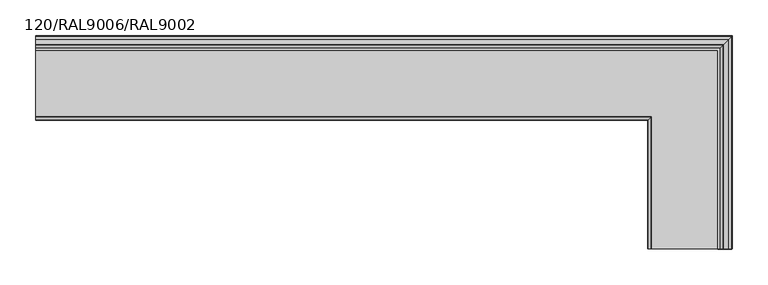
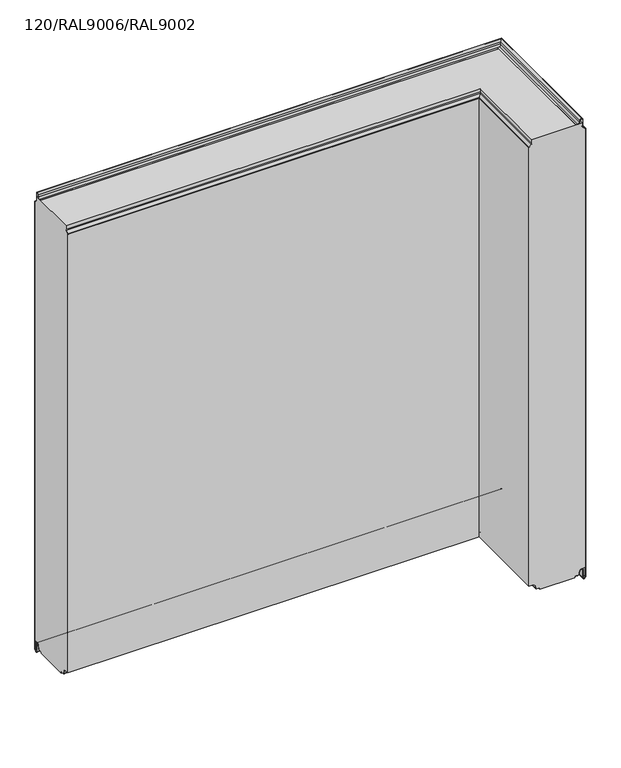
"""IFC4 building model written with IfcOpenShell, lengths in millimetres: plate geometry, TR_C_H_FTV_Corner_Tr_A : 120/RAL9006/RAL9002."""

from ifc_helpers import new_model, si_unit, frame, origin, place, context, project, spatial, polyline, circle_curve, ellipse_curve, source, transform, mapped, element, save
from ifc_brep_helpers import plane_surface, cylinder_surface, revolved_surface, advanced_brep


def plate_120_ral9006_ral9002_56020689(model_context):
    return source(origin(), model_context, "Body", "AdvancedBrep", [
        advanced_brep(
        [(483.2, -300.0, 1000.0), (376.8, -300.0, 1000.0), (376.8, -300.0, 992.6000012), (375.8334524, -300.0, 990.2665488), (371.4443651, -300.0, 985.8774615), (370.8, -300.0, 984.3218266), (370.8, -300.0, 14.4000012), (379.45, -300.0, 14.4000012), (383.635433, -300.0, 10.8880059), (384.7022582, -300.0, 4.837739), (387.6074411, -300.0, 2.4000012), (393.7, -300.0, 2.4000012), (393.7, -300.0, 0.0), (466.3, -300.0, 0.0), (466.3, -300.0, 2.4000012), (472.3925589, -300.0, 2.4000012), (475.2977418, -300.0, 4.837739), (476.364567, -300.0, 10.8880059), (480.55, -300.0, 14.4000012), (489.2, -300.0, 14.4000012), (489.2, -300.0, 984.3218266), (488.5556349, -300.0, 985.8774615), (484.1665476, -300.0, 990.2665488), (483.2, -300.0, 992.6000012), (376.8, -113.2, 992.6000012), (376.8, -113.2, 1000.0), (-490.0, -113.2, 1000.0), (-490.0, -113.2, 992.6000012), (375.8334524, -114.1665476, 990.2665488), (-490.0, -114.1665476, 990.2665488), (371.4443651, -118.5556349, 985.8774615), (-490.0, -118.5556349, 985.8774615), (370.8, -119.2, 984.3218266), (-490.0, -119.2, 984.3218266), (370.8, -119.2, 14.4000012), (-490.0, -119.2, 14.4000012), (383.635433, -106.364567, 10.8880059), (379.45, -110.55, 14.4000012), (-490.0, -110.55, 14.4000012), (-490.0, -106.364567, 10.8880059), (384.7022582, -105.2977418, 4.837739), (-490.0, -105.2977418, 4.837739), (387.6074411, -102.3925589, 2.4000012), (-490.0, -102.3925589, 2.4000012), (393.7, -96.3, 0.0), (393.7, -96.3, 2.4000012), (-490.0, -96.3, 2.4000012), (-490.0, -96.3, 0.0), (466.3, -23.7, 2.4000012), (466.3, -23.7, 0.0), (-490.0, -23.7, 0.0), (-490.0, -23.7, 2.4000012), (475.2977418, -14.7022582, 4.837739), (472.3925589, -17.6074411, 2.4000012), (-490.0, -17.6074411, 2.4000012), (-490.0, -14.7022582, 4.837739), (476.364567, -13.635433, 10.8880059), (-490.0, -13.635433, 10.8880059), (480.55, -9.45, 14.4000012), (-490.0, -9.45, 14.4000012), (489.2, -0.8, 984.3218266), (489.2, -0.8, 14.4000012), (-490.0, -0.8, 14.4000012), (-490.0, -0.8, 984.3218266), (488.5556349, -1.4443651, 985.8774615), (-490.0, -1.4443651, 985.8774615), (484.1665476, -5.8334524, 990.2665488), (-490.0, -5.8334524, 990.2665488), (483.2, -6.8, 992.6000012), (-490.0, -6.8, 992.6000012), (483.2, -6.8, 1000.0), (-490.0, -6.8, 1000.0)],
        [
            (0, 1),
            (1, 2),
            (2, 3, circle_curve(frame((373.5, -300.0, 992.6000012), z_axis=(0.0, 1.0, 0.0), x_axis=(-1.0, 0.0, 0.0)), 3.3)),
            (3, 4),
            (4, 5, circle_curve(frame((373.0, -300.0, 984.3218266), z_axis=(0.0, -1.0, 0.0), x_axis=(-1.0, 0.0, 0.0)), 2.2)),
            (5, 6),
            (6, 7),
            (7, 8, circle_curve(frame((379.45, -300.0, 10.1500012), z_axis=(0.0, 1.0, 0.0), x_axis=(-1.0, 0.0, 0.0)), 4.25)),
            (8, 9),
            (9, 10, circle_curve(frame((387.6074411, -300.0, 5.3500012), z_axis=(0.0, -1.0, 0.0), x_axis=(-1.0, 0.0, 0.0)), 2.95)),
            (10, 11),
            (11, 12),
            (12, 13),
            (13, 14),
            (14, 15),
            (15, 16, circle_curve(frame((472.3925589, -300.0, 5.3500012), z_axis=(0.0, -1.0, 0.0), x_axis=(-1.0, 0.0, 0.0)), 2.95)),
            (16, 17),
            (17, 18, circle_curve(frame((480.55, -300.0, 10.1500012), z_axis=(0.0, 1.0, 0.0), x_axis=(-1.0, 0.0, 0.0)), 4.25)),
            (18, 19),
            (19, 20),
            (20, 21, circle_curve(frame((487.0, -300.0, 984.3218266), z_axis=(0.0, -1.0, 0.0), x_axis=(-1.0, 0.0, 0.0)), 2.2)),
            (21, 22),
            (22, 23, circle_curve(frame((486.5, -300.0, 992.6000012), z_axis=(0.0, 1.0, 0.0), x_axis=(-1.0, 0.0, 0.0)), 3.3)),
            (23, 0),
            (24, 25),
            (25, 26),
            (26, 27),
            (27, 24),
            (28, 24, ellipse_curve(frame((373.5, -116.5, 992.6000012), z_axis=(0.7071067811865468, -0.7071067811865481, 0.0), x_axis=(-0.7071067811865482, -0.7071067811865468, 0.0)), 4.6669048, 3.3)),
            (27, 29, circle_curve(frame((-490.0, -116.5, 992.6000012), z_axis=(-1.0, 0.0, 0.0), x_axis=(0.0, -1.0, 0.0)), 3.3)),
            (29, 28),
            (30, 28),
            (29, 31),
            (31, 30),
            (32, 30, ellipse_curve(frame((373.0, -117.0, 984.3218266), z_axis=(-0.7071067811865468, 0.7071067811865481, 0.0), x_axis=(0.7071067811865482, 0.7071067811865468, 0.0)), 3.1112698, 2.2)),
            (31, 33, circle_curve(frame((-490.0, -117.0, 984.3218266), z_axis=(1.0, 0.0, 0.0), x_axis=(0.0, -1.0, 0.0)), 2.2)),
            (33, 32),
            (34, 32),
            (33, 35),
            (35, 34),
            (36, 37, ellipse_curve(frame((379.45, -110.55, 10.1500012), z_axis=(0.7071067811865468, -0.7071067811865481, 0.0), x_axis=(-0.7071067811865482, -0.7071067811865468, 0.0)), 6.0104076, 4.25)),
            (37, 38),
            (38, 39, circle_curve(frame((-490.0, -110.55, 10.1500012), z_axis=(-1.0, 0.0, 0.0), x_axis=(0.0, -1.0, 0.0)), 4.25)),
            (39, 36),
            (40, 36),
            (39, 41),
            (41, 40),
            (42, 40, ellipse_curve(frame((387.6074411, -102.3925589, 5.3500012), z_axis=(-0.7071067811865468, 0.7071067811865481, 0.0), x_axis=(0.7071067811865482, 0.7071067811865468, 0.0)), 4.17193, 2.95)),
            (41, 43, circle_curve(frame((-490.0, -102.3925589, 5.3500012), z_axis=(1.0, 0.0, 0.0), x_axis=(0.0, -1.0, 0.0)), 2.95)),
            (43, 42),
            (44, 45),
            (45, 46),
            (46, 47),
            (47, 44),
            (48, 49),
            (49, 50),
            (50, 51),
            (51, 48),
            (52, 53, ellipse_curve(frame((472.3925589, -17.6074411, 5.3500012), z_axis=(-0.7071067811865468, 0.7071067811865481, 0.0), x_axis=(0.7071067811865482, 0.7071067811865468, 0.0)), 4.17193, 2.95)),
            (53, 54),
            (54, 55, circle_curve(frame((-490.0, -17.6074411, 5.3500012), z_axis=(1.0, 0.0, 0.0), x_axis=(0.0, -1.0, 0.0)), 2.95)),
            (55, 52),
            (56, 52),
            (55, 57),
            (57, 56),
            (58, 56, ellipse_curve(frame((480.55, -9.45, 10.1500012), z_axis=(0.7071067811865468, -0.7071067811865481, 0.0), x_axis=(-0.7071067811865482, -0.7071067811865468, 0.0)), 6.0104076, 4.25)),
            (57, 59, circle_curve(frame((-490.0, -9.45, 10.1500012), z_axis=(-1.0, 0.0, 0.0), x_axis=(0.0, -1.0, 0.0)), 4.25)),
            (59, 58),
            (60, 61),
            (61, 62),
            (62, 63),
            (63, 60),
            (64, 60, ellipse_curve(frame((487.0, -3.0, 984.3218266), z_axis=(-0.7071067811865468, 0.7071067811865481, 0.0), x_axis=(0.7071067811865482, 0.7071067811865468, 0.0)), 3.1112698, 2.2)),
            (63, 65, circle_curve(frame((-490.0, -3.0, 984.3218266), z_axis=(1.0, 0.0, 0.0), x_axis=(0.0, -1.0, 0.0)), 2.2)),
            (65, 64),
            (66, 64),
            (65, 67),
            (67, 66),
            (68, 66, ellipse_curve(frame((486.5, -3.5, 992.6000012), z_axis=(0.7071067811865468, -0.7071067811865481, 0.0), x_axis=(-0.7071067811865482, -0.7071067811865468, 0.0)), 4.6669048, 3.3)),
            (67, 69, circle_curve(frame((-490.0, -3.5, 992.6000012), z_axis=(-1.0, 0.0, 0.0), x_axis=(0.0, -1.0, 0.0)), 3.3)),
            (69, 68),
            (70, 68),
            (69, 71),
            (71, 70),
            (62, 59),
            (54, 51),
            (50, 47),
            (46, 43),
            (38, 35),
            (26, 71),
            (0, 70),
            (25, 1),
            (24, 2),
            (28, 3),
            (30, 4),
            (32, 5),
            (34, 6),
            (37, 7),
            (36, 8),
            (40, 9),
            (42, 10),
            (45, 11),
            (44, 12),
            (49, 13),
            (48, 14),
            (53, 15),
            (52, 16),
            (56, 17),
            (58, 18),
            (61, 19),
            (60, 20),
            (64, 21),
            (66, 22),
            (68, 23),
        ],
        [
            plane_surface(frame((490.0, -300.0, 0.0), z_axis=(0.0, -1.0, 0.0), x_axis=(0.0, 0.0, 1.0))),
            plane_surface(frame((376.8, -113.2, 1000.0), z_axis=(0.0, -1.0, 0.0), x_axis=(-1.0, 0.0, 0.0))),
            revolved_surface(polyline([(-490.0, -119.8, 992.6000012), (376.80000003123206, -119.8, 992.6000012)]), (490.0, -116.5, 992.6000012), (-1.0, 0.0, 0.0)),
            plane_surface(frame((375.8334524, -114.1665476, 990.2665488), z_axis=(0.0, -0.707106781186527, 0.707106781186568), x_axis=(-1.0, 0.0, 0.0))),
            cylinder_surface(frame((490.0, -117.0, 984.3218266), z_axis=(1.0, 0.0, 0.0), x_axis=(0.0, -1.0, 0.0)), 2.2),
            plane_surface(frame((370.8, -119.2, 984.3218266), z_axis=(0.0, -1.0, 0.0), x_axis=(-1.0, 0.0, 0.0))),
            revolved_surface(polyline([(-490.0, -114.8, 10.1500012), (383.6999999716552, -114.8, 10.1500012)]), (490.0, -110.55, 10.1500012), (-1.0, 0.0, 0.0)),
            plane_surface(frame((383.635433, -106.364567, 10.8880059), z_axis=(0.0, -0.9848077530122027, -0.17364817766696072), x_axis=(-1.0, 0.0, 0.0))),
            cylinder_surface(frame((490.0, -102.3925589, 5.3500012), z_axis=(1.0, 0.0, 0.0), x_axis=(0.0, -1.0, 0.0)), 2.95),
            plane_surface(frame((393.7, -96.3, 2.4000012), z_axis=(0.0, -1.0, 0.0), x_axis=(-1.0, 0.0, 0.0))),
            plane_surface(frame((466.3, -23.7, 0.0), z_axis=(0.0, 1.0, 0.0), x_axis=(-1.0, 0.0, 0.0))),
            cylinder_surface(frame((490.0, -17.6074411, 5.3500012), z_axis=(1.0, 0.0, 0.0), x_axis=(0.0, -1.0, 0.0)), 2.95),
            plane_surface(frame((475.2977418, -14.7022582, 4.837739), z_axis=(0.0, 0.9848077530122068, -0.1736481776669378), x_axis=(-1.0, 0.0, 0.0))),
            revolved_surface(polyline([(-490.0, -13.7, 10.1500012), (484.79999997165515, -13.7, 10.1500012)]), (490.0, -9.45, 10.1500012), (-1.0, 0.0, 0.0)),
            plane_surface(frame((489.2, -0.8, 14.4000012), z_axis=(0.0, 1.0, 0.0), x_axis=(-1.0, 0.0, 0.0))),
            cylinder_surface(frame((490.0, -3.0, 984.3218266), z_axis=(1.0, 0.0, 0.0), x_axis=(0.0, -1.0, 0.0)), 2.2),
            plane_surface(frame((488.5556349, -1.4443651, 985.8774615), z_axis=(0.0, 0.7071067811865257, 0.7071067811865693), x_axis=(-1.0, 0.0, 0.0))),
            revolved_surface(polyline([(-490.0, -6.8, 992.6000012), (489.80000003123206, -6.8, 992.6000012)]), (490.0, -3.5, 992.6000012), (-1.0, 0.0, 0.0)),
            plane_surface(frame((483.2, -6.8, 992.6000012), z_axis=(0.0, 1.0, 0.0), x_axis=(-1.0, 0.0, 0.0))),
            plane_surface(frame((-490.0, 0.0, 0.0), z_axis=(-1.0, 0.0, 0.0), x_axis=(0.0, 0.0, 1.0))),
            plane_surface(frame((483.2, -300.0, 1000.0), z_axis=(0.0, 0.0, 1.0), x_axis=(0.0, 1.0, 0.0))),
            plane_surface(frame((376.8, -300.0, 1000.0), z_axis=(-1.0, 0.0, 0.0), x_axis=(0.0, 1.0, 0.0))),
            revolved_surface(polyline([(370.2, -113.19999996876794, 992.6000012), (370.2, -300.0, 992.6000012)]), (373.5, -300.0, 992.6000012), (0.0, 1.0, 0.0)),
            plane_surface(frame((375.8334524, -300.0, 990.2665488), z_axis=(-0.707106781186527, 0.0, 0.707106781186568), x_axis=(0.0, 1.0, 0.0))),
            cylinder_surface(frame((373.0, -300.0, 984.3218266), z_axis=(0.0, -1.0, 0.0), x_axis=(-1.0, 0.0, 0.0)), 2.2),
            plane_surface(frame((370.8, -300.0, 984.3218266), z_axis=(-1.0, 0.0, 0.0), x_axis=(0.0, 1.0, 0.0))),
            plane_surface(frame((370.8, -300.0, 14.4000012), z_axis=(0.0, 0.0, -1.0), x_axis=(0.0, 1.0, 0.0))),
            revolved_surface(polyline([(375.2, -106.30000002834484, 10.1500012), (375.2, -300.0, 10.1500012)]), (379.45, -300.0, 10.1500012), (0.0, 1.0, 0.0)),
            plane_surface(frame((383.635433, -300.0, 10.8880059), z_axis=(-0.9848077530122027, 0.0, -0.17364817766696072), x_axis=(0.0, 1.0, 0.0))),
            cylinder_surface(frame((387.6074411, -300.0, 5.3500012), z_axis=(0.0, -1.0, 0.0), x_axis=(-1.0, 0.0, 0.0)), 2.95),
            plane_surface(frame((387.6074411, -300.0, 2.4000012), z_axis=(0.0, 0.0, -1.0), x_axis=(0.0, 1.0, 0.0))),
            plane_surface(frame((393.7, -300.0, 2.4000012), z_axis=(-1.0, 0.0, 0.0), x_axis=(0.0, 1.0, 0.0))),
            plane_surface(frame((393.7, -300.0, 0.0), z_axis=(0.0, 0.0, -1.0), x_axis=(0.0, 1.0, 0.0))),
            plane_surface(frame((466.3, -300.0, 0.0), z_axis=(1.0, 0.0, 0.0), x_axis=(0.0, 1.0, 0.0))),
            plane_surface(frame((466.3, -300.0, 2.4000012), z_axis=(0.0, 0.0, -1.0), x_axis=(0.0, 1.0, 0.0))),
            cylinder_surface(frame((472.3925589, -300.0, 5.3500012), z_axis=(0.0, -1.0, 0.0), x_axis=(-1.0, 0.0, 0.0)), 2.95),
            plane_surface(frame((475.2977418, -300.0, 4.837739), z_axis=(0.9848077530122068, 0.0, -0.1736481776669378), x_axis=(0.0, 1.0, 0.0))),
            revolved_surface(polyline([(476.3, -5.200000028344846, 10.1500012), (476.3, -300.0, 10.1500012)]), (480.55, -300.0, 10.1500012), (0.0, 1.0, 0.0)),
            plane_surface(frame((480.55, -300.0, 14.4000012), z_axis=(0.0, 0.0, -1.0), x_axis=(0.0, 1.0, 0.0))),
            plane_surface(frame((489.2, -300.0, 14.4000012), z_axis=(1.0, 0.0, 0.0), x_axis=(0.0, 1.0, 0.0))),
            cylinder_surface(frame((487.0, -300.0, 984.3218266), z_axis=(0.0, -1.0, 0.0), x_axis=(-1.0, 0.0, 0.0)), 2.2),
            plane_surface(frame((488.5556349, -300.0, 985.8774615), z_axis=(0.7071067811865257, 0.0, 0.7071067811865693), x_axis=(0.0, 1.0, 0.0))),
            revolved_surface(polyline([(483.2, -0.19999996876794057, 992.6000012), (483.2, -300.0, 992.6000012)]), (486.5, -300.0, 992.6000012), (0.0, 1.0, 0.0)),
            plane_surface(frame((483.2, -300.0, 992.6000012), z_axis=(1.0, 0.0, 0.0), x_axis=(0.0, 1.0, 0.0))),
        ],
        [
            (0, [[1, 2, 3, 4, 5, 6, 7, 8, 9, 10, 11, 12, 13, 14, 15, 16, 17, 18, 19, 20, 21, 22, 23, 24]]),
            (1, [[25, 26, 27, 28]]),
            (2, [[29, -28, 30, 31]]),
            (3, [[32, -31, 33, 34]]),
            (4, [[35, -34, 36, 37]]),
            (5, [[38, -37, 39, 40]]),
            (6, [[41, 42, 43, 44]]),
            (7, [[45, -44, 46, 47]]),
            (8, [[48, -47, 49, 50]]),
            (9, [[51, 52, 53, 54]]),
            (10, [[55, 56, 57, 58]]),
            (11, [[59, 60, 61, 62]]),
            (12, [[63, -62, 64, 65]]),
            (13, [[66, -65, 67, 68]]),
            (14, [[69, 70, 71, 72]]),
            (15, [[73, -72, 74, 75]]),
            (16, [[76, -75, 77, 78]]),
            (17, [[79, -78, 80, 81]]),
            (18, [[82, -81, 83, 84]]),
            (19, [[-83, -80, -77, -74, -71, 85, -67, -64, -61, 86, -57, 87, -53, 88, -49, -46, -43, 89, -39, -36, -33, -30, -27, 90]]),
            (20, [[-1, 91, -84, -90, -26, 92]]),
            (21, [[-2, -92, -25, 93]]),
            (22, [[-3, -93, -29, 94]]),
            (23, [[-4, -94, -32, 95]]),
            (24, [[-5, -95, -35, 96]]),
            (25, [[-6, -96, -38, 97]]),
            (26, [[-7, -97, -40, -89, -42, 98]]),
            (27, [[-8, -98, -41, 99]]),
            (28, [[-9, -99, -45, 100]]),
            (29, [[-10, -100, -48, 101]]),
            (30, [[-11, -101, -50, -88, -52, 102]]),
            (31, [[-12, -102, -51, 103]]),
            (32, [[-13, -103, -54, -87, -56, 104]]),
            (33, [[-14, -104, -55, 105]]),
            (34, [[-15, -105, -58, -86, -60, 106]]),
            (35, [[-16, -106, -59, 107]]),
            (36, [[-17, -107, -63, 108]]),
            (37, [[-18, -108, -66, 109]]),
            (38, [[-19, -109, -68, -85, -70, 110]]),
            (39, [[-20, -110, -69, 111]]),
            (40, [[-21, -111, -73, 112]]),
            (41, [[-22, -112, -76, 113]]),
            (42, [[-23, -113, -79, 114]]),
            (43, [[-24, -114, -82, -91]]),
        ],
    ),
        advanced_brep(
        [(473.1130328, -300.0, 999.8000012), (477.5939081, -300.0, 1003.559902), (478.337221, -300.0, 1007.7754392), (483.2, -300.0, 1007.3500012), (483.2, -300.0, 992.6000012), (484.1665476, -300.0, 990.2665488), (488.5556349, -300.0, 985.8774615), (489.2, -300.0, 984.3218266), (489.2, -300.0, -5.018628), (488.6288582, -300.0, -6.3974862), (486.7631728, -300.0, -8.2631716), (484.8, -300.0, -7.4499988), (484.8, -300.0, 10.1500012), (476.364567, -300.0, 10.8880059), (475.2977418, -300.0, 4.837739), (472.3925589, -300.0, 2.4000012), (469.0, -300.0, 2.4000012), (469.0, -300.0, 1.6000012), (472.3925589, -300.0, 1.6000012), (476.085588, -300.0, 4.6988205), (477.1524133, -300.0, 10.7490874), (484.0, -300.0, 10.1500012), (484.0, -300.0, -7.4499988), (487.3288582, -300.0, -8.8288571), (489.1945436, -300.0, -6.9631716), (490.0, -300.0, -5.018628), (490.0, -300.0, 984.3218266), (489.1213203, -300.0, 986.4431469), (484.732233, -300.0, 990.8322342), (484.0, -300.0, 992.6000012), (484.0, -300.0, 1007.3500012), (477.5493748, -300.0, 1007.9143577), (476.8060618, -300.0, 1003.6988205), (473.1130328, -300.0, 1000.6000012), (469.0, -300.0, 1000.6000012), (469.0, -300.0, 999.8000012), (477.5939081, -12.4060919, 1003.559902), (473.1130328, -16.8869672, 999.8000012), (-490.0, -16.8869672, 999.8000012), (-490.0, -12.4060919, 1003.559902), (478.337221, -11.662779, 1007.7754392), (-490.0, -11.662779, 1007.7754392), (483.2, -6.8, 1007.3500012), (-490.0, -6.8, 1007.3500012), (483.2, -6.8, 992.6000012), (-490.0, -6.8, 992.6000012), (484.1665476, -5.8334524, 990.2665488), (-490.0, -5.8334524, 990.2665488), (488.5556349, -1.4443651, 985.8774615), (-490.0, -1.4443651, 985.8774615), (489.2, -0.8, 984.3218266), (-490.0, -0.8, 984.3218266), (489.2, -0.8, -5.018628), (-490.0, -0.8, -5.018628), (488.6288582, -1.3711418, -6.3974862), (-490.0, -1.3711418, -6.3974862), (486.7631728, -3.2368272, -8.2631716), (-490.0, -3.2368272, -8.2631716), (484.8, -5.2, -7.4499988), (-490.0, -5.2, -7.4499988), (484.8, -5.2, 10.1500012), (-490.0, -5.2, 10.1500012), (476.364567, -13.635433, 10.8880059), (-490.0, -13.635433, 10.8880059), (475.2977418, -14.7022582, 4.837739), (-490.0, -14.7022582, 4.837739), (472.3925589, -17.6074411, 2.4000012), (-490.0, -17.6074411, 2.4000012), (469.0, -21.0, 1.6000012), (469.0, -21.0, 2.4000012), (-490.0, -21.0, 2.4000012), (-490.0, -21.0, 1.6000012), (476.085588, -13.914412, 4.6988205), (472.3925589, -17.6074411, 1.6000012), (-490.0, -17.6074411, 1.6000012), (-490.0, -13.914412, 4.6988205), (477.1524133, -12.8475867, 10.7490874), (-490.0, -12.8475867, 10.7490874), (484.0, -6.0, 10.1500012), (-490.0, -6.0, 10.1500012), (484.0, -6.0, -7.4499988), (-490.0, -6.0, -7.4499988), (487.3288582, -2.6711418, -8.8288571), (-490.0, -2.6711418, -8.8288571), (489.1945436, -0.8054564, -6.9631716), (-490.0, -0.8054564, -6.9631716), (490.0, 0.0, -5.018628), (-490.0, 0.0, -5.018628), (490.0, 0.0, 984.3218266), (-490.0, 0.0, 984.3218266), (489.1213203, -0.8786797, 986.4431469), (-490.0, -0.8786797, 986.4431469), (484.732233, -5.267767, 990.8322342), (-490.0, -5.267767, 990.8322342), (484.0, -6.0, 992.6000012), (-490.0, -6.0, 992.6000012), (484.0, -6.0, 1007.3500012), (-490.0, -6.0, 1007.3500012), (477.5493748, -12.4506252, 1007.9143577), (-490.0, -12.4506252, 1007.9143577), (476.8060618, -13.1939382, 1003.6988205), (-490.0, -13.1939382, 1003.6988205), (473.1130328, -16.8869672, 1000.6000012), (-490.0, -16.8869672, 1000.6000012), (469.0, -21.0, 999.8000012), (469.0, -21.0, 1000.6000012), (-490.0, -21.0, 1000.6000012), (-490.0, -21.0, 999.8000012)],
        [
            (0, 1, circle_curve(frame((473.1130328, -300.0, 1004.3500012), z_axis=(0.0, -1.0, 0.0), x_axis=(-1.0, 0.0, 0.0)), 4.55)),
            (1, 2),
            (2, 3, circle_curve(frame((480.75, -300.0, 1007.3500012), z_axis=(0.0, 1.0, 0.0), x_axis=(-1.0, 0.0, 0.0)), 2.45)),
            (3, 4),
            (4, 5, circle_curve(frame((486.5, -300.0, 992.6000012), z_axis=(0.0, -1.0, 0.0), x_axis=(-1.0, 0.0, 0.0)), 3.3)),
            (5, 6),
            (6, 7, circle_curve(frame((487.0, -300.0, 984.3218266), z_axis=(0.0, 1.0, 0.0), x_axis=(-1.0, 0.0, 0.0)), 2.2)),
            (7, 8),
            (8, 9, circle_curve(frame((487.25, -300.0, -5.018628), z_axis=(0.0, 1.0, 0.0), x_axis=(-1.0, 0.0, 0.0)), 1.95)),
            (9, 10),
            (10, 11, circle_curve(frame((485.95, -300.0, -7.4499988), z_axis=(0.0, 1.0, 0.0), x_axis=(-1.0, 0.0, 0.0)), 1.15)),
            (11, 12),
            (12, 13, circle_curve(frame((480.55, -300.0, 10.1500012), z_axis=(0.0, -1.0, 0.0), x_axis=(-1.0, 0.0, 0.0)), 4.25)),
            (13, 14),
            (14, 15, circle_curve(frame((472.3925589, -300.0, 5.3500012), z_axis=(0.0, 1.0, 0.0), x_axis=(-1.0, 0.0, 0.0)), 2.95)),
            (15, 16),
            (16, 17),
            (17, 18),
            (18, 19, circle_curve(frame((472.3925589, -300.0, 5.3500012), z_axis=(0.0, -1.0, 0.0), x_axis=(-1.0, 0.0, 0.0)), 3.75)),
            (19, 20),
            (20, 21, circle_curve(frame((480.55, -300.0, 10.1500012), z_axis=(0.0, 1.0, 0.0), x_axis=(-1.0, 0.0, 0.0)), 3.45)),
            (21, 22),
            (22, 23, circle_curve(frame((485.95, -300.0, -7.4499988), z_axis=(0.0, -1.0, 0.0), x_axis=(-1.0, 0.0, 0.0)), 1.95)),
            (23, 24),
            (24, 25, circle_curve(frame((487.25, -300.0, -5.018628), z_axis=(0.0, -1.0, 0.0), x_axis=(-1.0, 0.0, 0.0)), 2.75)),
            (25, 26),
            (26, 27, circle_curve(frame((487.0, -300.0, 984.3218266), z_axis=(0.0, -1.0, 0.0), x_axis=(-1.0, 0.0, 0.0)), 3.0)),
            (27, 28),
            (28, 29, circle_curve(frame((486.5, -300.0, 992.6000012), z_axis=(0.0, 1.0, 0.0), x_axis=(-1.0, 0.0, 0.0)), 2.5)),
            (29, 30),
            (30, 31, circle_curve(frame((480.75, -300.0, 1007.3500012), z_axis=(0.0, -1.0, 0.0), x_axis=(-1.0, 0.0, 0.0)), 3.25)),
            (31, 32),
            (32, 33, circle_curve(frame((473.1130328, -300.0, 1004.3500012), z_axis=(0.0, 1.0, 0.0), x_axis=(-1.0, 0.0, 0.0)), 3.75)),
            (33, 34),
            (34, 35),
            (35, 0),
            (36, 37, ellipse_curve(frame((473.1130328, -16.8869672, 1004.3500012), z_axis=(-0.7071067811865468, 0.7071067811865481, 0.0), x_axis=(0.7071067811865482, 0.7071067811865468, 0.0)), 6.4346717, 4.55)),
            (37, 38),
            (38, 39, circle_curve(frame((-490.0, -16.8869672, 1004.3500012), z_axis=(1.0, 0.0, 0.0), x_axis=(0.0, -1.0, 0.0)), 4.55)),
            (39, 36),
            (40, 36),
            (39, 41),
            (41, 40),
            (42, 40, ellipse_curve(frame((480.75, -9.25, 1007.3500012), z_axis=(0.7071067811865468, -0.7071067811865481, 0.0), x_axis=(-0.7071067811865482, -0.7071067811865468, 0.0)), 3.4648232, 2.45)),
            (41, 43, circle_curve(frame((-490.0, -9.25, 1007.3500012), z_axis=(-1.0, 0.0, 0.0), x_axis=(0.0, -1.0, 0.0)), 2.45)),
            (43, 42),
            (44, 42),
            (43, 45),
            (45, 44),
            (46, 44, ellipse_curve(frame((486.5, -3.5, 992.6000012), z_axis=(-0.7071067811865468, 0.7071067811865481, 0.0), x_axis=(0.7071067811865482, 0.7071067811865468, 0.0)), 4.6669048, 3.3)),
            (45, 47, circle_curve(frame((-490.0, -3.5, 992.6000012), z_axis=(1.0, 0.0, 0.0), x_axis=(0.0, -1.0, 0.0)), 3.3)),
            (47, 46),
            (48, 46),
            (47, 49),
            (49, 48),
            (50, 48, ellipse_curve(frame((487.0, -3.0, 984.3218266), z_axis=(0.7071067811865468, -0.7071067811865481, 0.0), x_axis=(-0.7071067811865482, -0.7071067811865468, 0.0)), 3.1112698, 2.2)),
            (49, 51, circle_curve(frame((-490.0, -3.0, 984.3218266), z_axis=(-1.0, 0.0, 0.0), x_axis=(0.0, -1.0, 0.0)), 2.2)),
            (51, 50),
            (52, 50),
            (51, 53),
            (53, 52),
            (54, 52, ellipse_curve(frame((487.25, -2.75, -5.018628), z_axis=(0.7071067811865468, -0.7071067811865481, 0.0), x_axis=(-0.7071067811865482, -0.7071067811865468, 0.0)), 2.7577164, 1.95)),
            (53, 55, circle_curve(frame((-490.0, -2.75, -5.018628), z_axis=(-1.0, 0.0, 0.0), x_axis=(0.0, -1.0, 0.0)), 1.95)),
            (55, 54),
            (56, 54),
            (55, 57),
            (57, 56),
            (58, 56, ellipse_curve(frame((485.95, -4.05, -7.4499988), z_axis=(0.7071067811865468, -0.7071067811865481, 0.0), x_axis=(-0.7071067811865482, -0.7071067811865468, 0.0)), 1.6263456, 1.15)),
            (57, 59, circle_curve(frame((-490.0, -4.05, -7.4499988), z_axis=(-1.0, 0.0, 0.0), x_axis=(0.0, -1.0, 0.0)), 1.15)),
            (59, 58),
            (60, 58),
            (59, 61),
            (61, 60),
            (62, 60, ellipse_curve(frame((480.55, -9.45, 10.1500012), z_axis=(-0.7071067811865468, 0.7071067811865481, 0.0), x_axis=(0.7071067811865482, 0.7071067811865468, 0.0)), 6.0104076, 4.25)),
            (61, 63, circle_curve(frame((-490.0, -9.45, 10.1500012), z_axis=(1.0, 0.0, 0.0), x_axis=(0.0, -1.0, 0.0)), 4.25)),
            (63, 62),
            (64, 62),
            (63, 65),
            (65, 64),
            (66, 64, ellipse_curve(frame((472.3925589, -17.6074411, 5.3500012), z_axis=(0.7071067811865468, -0.7071067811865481, 0.0), x_axis=(-0.7071067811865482, -0.7071067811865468, 0.0)), 4.17193, 2.95)),
            (65, 67, circle_curve(frame((-490.0, -17.6074411, 5.3500012), z_axis=(-1.0, 0.0, 0.0), x_axis=(0.0, -1.0, 0.0)), 2.95)),
            (67, 66),
            (68, 69),
            (69, 70),
            (70, 71),
            (71, 68),
            (72, 73, ellipse_curve(frame((472.3925589, -17.6074411, 5.3500012), z_axis=(-0.7071067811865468, 0.7071067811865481, 0.0), x_axis=(0.7071067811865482, 0.7071067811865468, 0.0)), 5.3033009, 3.75)),
            (73, 74),
            (74, 75, circle_curve(frame((-490.0, -17.6074411, 5.3500012), z_axis=(1.0, 0.0, 0.0), x_axis=(0.0, -1.0, 0.0)), 3.75)),
            (75, 72),
            (76, 72),
            (75, 77),
            (77, 76),
            (78, 76, ellipse_curve(frame((480.55, -9.45, 10.1500012), z_axis=(0.7071067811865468, -0.7071067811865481, 0.0), x_axis=(-0.7071067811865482, -0.7071067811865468, 0.0)), 4.8790368, 3.45)),
            (77, 79, circle_curve(frame((-490.0, -9.45, 10.1500012), z_axis=(-1.0, 0.0, 0.0), x_axis=(0.0, -1.0, 0.0)), 3.45)),
            (79, 78),
            (80, 78),
            (79, 81),
            (81, 80),
            (82, 80, ellipse_curve(frame((485.95, -4.05, -7.4499988), z_axis=(-0.7071067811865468, 0.7071067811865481, 0.0), x_axis=(0.7071067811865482, 0.7071067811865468, 0.0)), 2.7577164, 1.95)),
            (81, 83, circle_curve(frame((-490.0, -4.05, -7.4499988), z_axis=(1.0, 0.0, 0.0), x_axis=(0.0, -1.0, 0.0)), 1.95)),
            (83, 82),
            (84, 82),
            (83, 85),
            (85, 84),
            (86, 84, ellipse_curve(frame((487.25, -2.75, -5.018628), z_axis=(-0.7071067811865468, 0.7071067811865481, 0.0), x_axis=(0.7071067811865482, 0.7071067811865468, 0.0)), 3.8890873, 2.75)),
            (85, 87, circle_curve(frame((-490.0, -2.75, -5.018628), z_axis=(1.0, 0.0, 0.0), x_axis=(0.0, -1.0, 0.0)), 2.75)),
            (87, 86),
            (88, 86),
            (87, 89),
            (89, 88),
            (90, 88, ellipse_curve(frame((487.0, -3.0, 984.3218266), z_axis=(-0.7071067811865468, 0.7071067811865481, 0.0), x_axis=(0.7071067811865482, 0.7071067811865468, 0.0)), 4.2426407, 3.0)),
            (89, 91, circle_curve(frame((-490.0, -3.0, 984.3218266), z_axis=(1.0, 0.0, 0.0), x_axis=(0.0, -1.0, 0.0)), 3.0)),
            (91, 90),
            (92, 90),
            (91, 93),
            (93, 92),
            (94, 92, ellipse_curve(frame((486.5, -3.5, 992.6000012), z_axis=(0.7071067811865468, -0.7071067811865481, 0.0), x_axis=(-0.7071067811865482, -0.7071067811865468, 0.0)), 3.5355339, 2.5)),
            (93, 95, circle_curve(frame((-490.0, -3.5, 992.6000012), z_axis=(-1.0, 0.0, 0.0), x_axis=(0.0, -1.0, 0.0)), 2.5)),
            (95, 94),
            (96, 94),
            (95, 97),
            (97, 96),
            (98, 96, ellipse_curve(frame((480.75, -9.25, 1007.3500012), z_axis=(-0.7071067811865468, 0.7071067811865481, 0.0), x_axis=(0.7071067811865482, 0.7071067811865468, 0.0)), 4.5961941, 3.25)),
            (97, 99, circle_curve(frame((-490.0, -9.25, 1007.3500012), z_axis=(1.0, 0.0, 0.0), x_axis=(0.0, -1.0, 0.0)), 3.25)),
            (99, 98),
            (100, 98),
            (99, 101),
            (101, 100),
            (102, 100, ellipse_curve(frame((473.1130328, -16.8869672, 1004.3500012), z_axis=(0.7071067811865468, -0.7071067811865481, 0.0), x_axis=(-0.7071067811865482, -0.7071067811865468, 0.0)), 5.3033009, 3.75)),
            (101, 103, circle_curve(frame((-490.0, -16.8869672, 1004.3500012), z_axis=(-1.0, 0.0, 0.0), x_axis=(0.0, -1.0, 0.0)), 3.75)),
            (103, 102),
            (104, 105),
            (105, 106),
            (106, 107),
            (107, 104),
            (38, 107),
            (106, 103),
            (74, 71),
            (70, 67),
            (0, 37),
            (36, 1),
            (40, 2),
            (42, 3),
            (44, 4),
            (46, 5),
            (48, 6),
            (50, 7),
            (52, 8),
            (54, 9),
            (56, 10),
            (58, 11),
            (60, 12),
            (62, 13),
            (64, 14),
            (66, 15),
            (69, 16),
            (68, 17),
            (73, 18),
            (72, 19),
            (76, 20),
            (78, 21),
            (80, 22),
            (82, 23),
            (84, 24),
            (86, 25),
            (88, 26),
            (90, 27),
            (92, 28),
            (94, 29),
            (96, 30),
            (98, 31),
            (100, 32),
            (102, 33),
            (105, 34),
            (104, 35),
        ],
        [
            plane_surface(frame((490.0, -300.0, 0.0), z_axis=(0.0, -1.0, 0.0), x_axis=(0.0, 0.0, 1.0))),
            cylinder_surface(frame((490.0, -16.8869672, 1004.3500012), z_axis=(1.0, 0.0, 0.0), x_axis=(0.0, -1.0, 0.0)), 4.55),
            plane_surface(frame((477.5939081, -12.4060919, 1003.559902), z_axis=(0.0, 0.9848077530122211, -0.1736481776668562), x_axis=(-1.0, 0.0, 0.0))),
            revolved_surface(polyline([(-490.0, -11.7, 1007.3500012), (483.2, -11.7, 1007.3500012)]), (490.0, -9.25, 1007.3500012), (-1.0, 0.0, 0.0)),
            plane_surface(frame((483.2, -6.8, 1007.3500012), z_axis=(0.0, -1.0, 0.0), x_axis=(-1.0, 0.0, 0.0))),
            cylinder_surface(frame((490.0, -3.5, 992.6000012), z_axis=(1.0, 0.0, 0.0), x_axis=(0.0, -1.0, 0.0)), 3.3),
            plane_surface(frame((484.1665476, -5.8334524, 990.2665488), z_axis=(0.0, -0.7071067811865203, -0.7071067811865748), x_axis=(-1.0, 0.0, 0.0))),
            revolved_surface(polyline([(-490.0, -5.2, 984.3218266), (489.2, -5.2, 984.3218266)]), (490.0, -3.0, 984.3218266), (-1.0, 0.0, 0.0)),
            plane_surface(frame((489.2, -0.8, 984.3218266), z_axis=(0.0, -1.0, 0.0), x_axis=(-1.0, 0.0, 0.0))),
            revolved_surface(polyline([(-490.0, -4.7, -5.018628), (489.2, -4.7, -5.018628)]), (490.0, -2.75, -5.018628), (-1.0, 0.0, 0.0)),
            plane_surface(frame((488.6288582, -1.3711418, -6.3974862), z_axis=(0.0, -0.7071067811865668, 0.7071067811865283), x_axis=(-1.0, 0.0, 0.0))),
            revolved_surface(polyline([(-490.0, -5.199999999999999, -7.4499988), (487.10000000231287, -5.199999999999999, -7.4499988)]), (490.0, -4.05, -7.4499988), (-1.0, 0.0, 0.0)),
            plane_surface(frame((484.8, -5.2, -7.4499988), z_axis=(0.0, 1.0, 0.0), x_axis=(-1.0, 0.0, 0.0))),
            cylinder_surface(frame((490.0, -9.45, 10.1500012), z_axis=(1.0, 0.0, 0.0), x_axis=(0.0, -1.0, 0.0)), 4.25),
            plane_surface(frame((476.364567, -13.635433, 10.8880059), z_axis=(0.0, -0.9848077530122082, 0.17364817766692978), x_axis=(-1.0, 0.0, 0.0))),
            revolved_surface(polyline([(-490.0, -20.5574411, 5.3500012), (475.34255889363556, -20.5574411, 5.3500012)]), (490.0, -17.6074411, 5.3500012), (-1.0, 0.0, 0.0)),
            plane_surface(frame((469.0, -21.0, 2.4000012), z_axis=(0.0, -1.0, 0.0), x_axis=(-1.0, 0.0, 0.0))),
            cylinder_surface(frame((490.0, -17.6074411, 5.3500012), z_axis=(1.0, 0.0, 0.0), x_axis=(0.0, -1.0, 0.0)), 3.75),
            plane_surface(frame((476.085588, -13.914412, 4.6988205), z_axis=(0.0, 0.9848077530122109, -0.17364817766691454), x_axis=(-1.0, 0.0, 0.0))),
            revolved_surface(polyline([(-490.0, -12.899999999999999, 10.1500012), (484.0000000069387, -12.899999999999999, 10.1500012)]), (490.0, -9.45, 10.1500012), (-1.0, 0.0, 0.0)),
            plane_surface(frame((484.0, -6.0, 10.1500012), z_axis=(0.0, -1.0, 0.0), x_axis=(-1.0, 0.0, 0.0))),
            cylinder_surface(frame((490.0, -4.05, -7.4499988), z_axis=(1.0, 0.0, 0.0), x_axis=(0.0, -1.0, 0.0)), 1.95),
            plane_surface(frame((487.3288582, -2.6711418, -8.8288571), z_axis=(0.0, 0.7071067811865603, -0.7071067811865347), x_axis=(-1.0, 0.0, 0.0))),
            cylinder_surface(frame((490.0, -2.75, -5.018628), z_axis=(1.0, 0.0, 0.0), x_axis=(0.0, -1.0, 0.0)), 2.75),
            plane_surface(frame((490.0, 0.0, -5.018628), z_axis=(0.0, 1.0, 0.0), x_axis=(-1.0, 0.0, 0.0))),
            cylinder_surface(frame((490.0, -3.0, 984.3218266), z_axis=(1.0, 0.0, 0.0), x_axis=(0.0, -1.0, 0.0)), 3.0),
            plane_surface(frame((489.1213203, -0.8786797, 986.4431469), z_axis=(0.0, 0.7071067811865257, 0.7071067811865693), x_axis=(-1.0, 0.0, 0.0))),
            revolved_surface(polyline([(-490.0, -6.0, 992.6000012), (488.9999999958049, -6.0, 992.6000012)]), (490.0, -3.5, 992.6000012), (-1.0, 0.0, 0.0)),
            plane_surface(frame((484.0, -6.0, 992.6000012), z_axis=(0.0, 1.0, 0.0), x_axis=(-1.0, 0.0, 0.0))),
            cylinder_surface(frame((490.0, -9.25, 1007.3500012), z_axis=(1.0, 0.0, 0.0), x_axis=(0.0, -1.0, 0.0)), 3.25),
            plane_surface(frame((477.5493748, -12.4506252, 1007.9143577), z_axis=(0.0, -0.9848077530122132, 0.17364817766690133), x_axis=(-1.0, 0.0, 0.0))),
            revolved_surface(polyline([(-490.0, -20.6369672, 1004.3500012), (476.8630328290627, -20.6369672, 1004.3500012)]), (490.0, -16.8869672, 1004.3500012), (-1.0, 0.0, 0.0)),
            plane_surface(frame((469.0, -21.0, 1000.6000012), z_axis=(0.0, -1.0, 0.0), x_axis=(-1.0, 0.0, 0.0))),
            plane_surface(frame((-490.0, 0.0, 0.0), z_axis=(-1.0, 0.0, 0.0), x_axis=(0.0, 0.0, 1.0))),
            cylinder_surface(frame((473.1130328, -300.0, 1004.3500012), z_axis=(0.0, -1.0, 0.0), x_axis=(-1.0, 0.0, 0.0)), 4.55),
            plane_surface(frame((477.5939081, -300.0, 1003.559902), z_axis=(0.9848077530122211, 0.0, -0.1736481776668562), x_axis=(0.0, 1.0, 0.0))),
            revolved_surface(polyline([(478.3, -6.800000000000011, 1007.3500012), (478.3, -300.0, 1007.3500012)]), (480.75, -300.0, 1007.3500012), (0.0, 1.0, 0.0)),
            plane_surface(frame((483.2, -300.0, 1007.3500012), z_axis=(-1.0, 0.0, 0.0), x_axis=(0.0, 1.0, 0.0))),
            cylinder_surface(frame((486.5, -300.0, 992.6000012), z_axis=(0.0, -1.0, 0.0), x_axis=(-1.0, 0.0, 0.0)), 3.3),
            plane_surface(frame((484.1665476, -300.0, 990.2665488), z_axis=(-0.7071067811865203, 0.0, -0.7071067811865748), x_axis=(0.0, 1.0, 0.0))),
            revolved_surface(polyline([(484.8, -0.8000000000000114, 984.3218266), (484.8, -300.0, 984.3218266)]), (487.0, -300.0, 984.3218266), (0.0, 1.0, 0.0)),
            plane_surface(frame((489.2, -300.0, 984.3218266), z_axis=(-1.0, 0.0, 0.0), x_axis=(0.0, 1.0, 0.0))),
            revolved_surface(polyline([(485.3, -0.8000000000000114, -5.018628), (485.3, -300.0, -5.018628)]), (487.25, -300.0, -5.018628), (0.0, 1.0, 0.0)),
            plane_surface(frame((488.6288582, -300.0, -6.3974862), z_axis=(-0.7071067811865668, 0.0, 0.7071067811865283), x_axis=(0.0, 1.0, 0.0))),
            revolved_surface(polyline([(484.8, -2.8999999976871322, -7.4499988), (484.8, -300.0, -7.4499988)]), (485.95, -300.0, -7.4499988), (0.0, 1.0, 0.0)),
            plane_surface(frame((484.8, -300.0, -7.4499988), z_axis=(1.0, 0.0, 0.0), x_axis=(0.0, 1.0, 0.0))),
            cylinder_surface(frame((480.55, -300.0, 10.1500012), z_axis=(0.0, -1.0, 0.0), x_axis=(-1.0, 0.0, 0.0)), 4.25),
            plane_surface(frame((476.364567, -300.0, 10.8880059), z_axis=(-0.9848077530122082, 0.0, 0.17364817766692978), x_axis=(0.0, 1.0, 0.0))),
            revolved_surface(polyline([(469.4425589, -14.657441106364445, 5.3500012), (469.4425589, -300.0, 5.3500012)]), (472.3925589, -300.0, 5.3500012), (0.0, 1.0, 0.0)),
            plane_surface(frame((472.3925589, -300.0, 2.4000012), z_axis=(0.0, 0.0, 1.0), x_axis=(0.0, 1.0, 0.0))),
            plane_surface(frame((469.0, -300.0, 2.4000012), z_axis=(-1.0, 0.0, 0.0), x_axis=(0.0, 1.0, 0.0))),
            plane_surface(frame((469.0, -300.0, 1.6000012), z_axis=(0.0, 0.0, -1.0), x_axis=(0.0, 1.0, 0.0))),
            cylinder_surface(frame((472.3925589, -300.0, 5.3500012), z_axis=(0.0, -1.0, 0.0), x_axis=(-1.0, 0.0, 0.0)), 3.75),
            plane_surface(frame((476.085588, -300.0, 4.6988205), z_axis=(0.9848077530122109, 0.0, -0.17364817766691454), x_axis=(0.0, 1.0, 0.0))),
            revolved_surface(polyline([(477.1, -5.999999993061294, 10.1500012), (477.1, -300.0, 10.1500012)]), (480.55, -300.0, 10.1500012), (0.0, 1.0, 0.0)),
            plane_surface(frame((484.0, -300.0, 10.1500012), z_axis=(-1.0, 0.0, 0.0), x_axis=(0.0, 1.0, 0.0))),
            cylinder_surface(frame((485.95, -300.0, -7.4499988), z_axis=(0.0, -1.0, 0.0), x_axis=(-1.0, 0.0, 0.0)), 1.95),
            plane_surface(frame((487.3288582, -300.0, -8.8288571), z_axis=(0.7071067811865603, 0.0, -0.7071067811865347), x_axis=(0.0, 1.0, 0.0))),
            cylinder_surface(frame((487.25, -300.0, -5.018628), z_axis=(0.0, -1.0, 0.0), x_axis=(-1.0, 0.0, 0.0)), 2.75),
            plane_surface(frame((490.0, -300.0, -5.018628), z_axis=(1.0, 0.0, 0.0), x_axis=(0.0, 1.0, 0.0))),
            cylinder_surface(frame((487.0, -300.0, 984.3218266), z_axis=(0.0, -1.0, 0.0), x_axis=(-1.0, 0.0, 0.0)), 3.0),
            plane_surface(frame((489.1213203, -300.0, 986.4431469), z_axis=(0.7071067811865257, 0.0, 0.7071067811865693), x_axis=(0.0, 1.0, 0.0))),
            revolved_surface(polyline([(484.0, -1.0000000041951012, 992.6000012), (484.0, -300.0, 992.6000012)]), (486.5, -300.0, 992.6000012), (0.0, 1.0, 0.0)),
            plane_surface(frame((484.0, -300.0, 992.6000012), z_axis=(1.0, 0.0, 0.0), x_axis=(0.0, 1.0, 0.0))),
            cylinder_surface(frame((480.75, -300.0, 1007.3500012), z_axis=(0.0, -1.0, 0.0), x_axis=(-1.0, 0.0, 0.0)), 3.25),
            plane_surface(frame((477.5493748, -300.0, 1007.9143577), z_axis=(-0.9848077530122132, 0.0, 0.17364817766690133), x_axis=(0.0, 1.0, 0.0))),
            revolved_surface(polyline([(469.3630328, -13.136967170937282, 1004.3500012), (469.3630328, -300.0, 1004.3500012)]), (473.1130328, -300.0, 1004.3500012), (0.0, 1.0, 0.0)),
            plane_surface(frame((473.1130328, -300.0, 1000.6000012), z_axis=(0.0, 0.0, 1.0), x_axis=(0.0, 1.0, 0.0))),
            plane_surface(frame((469.0, -300.0, 1000.6000012), z_axis=(-1.0, 0.0, 0.0), x_axis=(0.0, 1.0, 0.0))),
            plane_surface(frame((469.0, -300.0, 999.8000012), z_axis=(0.0, 0.0, -1.0), x_axis=(0.0, 1.0, 0.0))),
        ],
        [
            (0, [[1, 2, 3, 4, 5, 6, 7, 8, 9, 10, 11, 12, 13, 14, 15, 16, 17, 18, 19, 20, 21, 22, 23, 24, 25, 26, 27, 28, 29, 30, 31, 32, 33, 34, 35, 36]]),
            (1, [[37, 38, 39, 40]]),
            (2, [[41, -40, 42, 43]]),
            (3, [[44, -43, 45, 46]]),
            (4, [[47, -46, 48, 49]]),
            (5, [[50, -49, 51, 52]]),
            (6, [[53, -52, 54, 55]]),
            (7, [[56, -55, 57, 58]]),
            (8, [[59, -58, 60, 61]]),
            (9, [[62, -61, 63, 64]]),
            (10, [[65, -64, 66, 67]]),
            (11, [[68, -67, 69, 70]]),
            (12, [[71, -70, 72, 73]]),
            (13, [[74, -73, 75, 76]]),
            (14, [[77, -76, 78, 79]]),
            (15, [[80, -79, 81, 82]]),
            (16, [[83, 84, 85, 86]]),
            (17, [[87, 88, 89, 90]]),
            (18, [[91, -90, 92, 93]]),
            (19, [[94, -93, 95, 96]]),
            (20, [[97, -96, 98, 99]]),
            (21, [[100, -99, 101, 102]]),
            (22, [[103, -102, 104, 105]]),
            (23, [[106, -105, 107, 108]]),
            (24, [[109, -108, 110, 111]]),
            (25, [[112, -111, 113, 114]]),
            (26, [[115, -114, 116, 117]]),
            (27, [[118, -117, 119, 120]]),
            (28, [[121, -120, 122, 123]]),
            (29, [[124, -123, 125, 126]]),
            (30, [[127, -126, 128, 129]]),
            (31, [[130, -129, 131, 132]]),
            (32, [[133, 134, 135, 136]]),
            (33, [[137, -135, 138, -131, -128, -125, -122, -119, -116, -113, -110, -107, -104, -101, -98, -95, -92, -89, 139, -85, 140, -81, -78, -75, -72, -69, -66, -63, -60, -57, -54, -51, -48, -45, -42, -39]]),
            (34, [[-1, 141, -37, 142]]),
            (35, [[-2, -142, -41, 143]]),
            (36, [[-3, -143, -44, 144]]),
            (37, [[-4, -144, -47, 145]]),
            (38, [[-5, -145, -50, 146]]),
            (39, [[-6, -146, -53, 147]]),
            (40, [[-7, -147, -56, 148]]),
            (41, [[-8, -148, -59, 149]]),
            (42, [[-9, -149, -62, 150]]),
            (43, [[-10, -150, -65, 151]]),
            (44, [[-11, -151, -68, 152]]),
            (45, [[-12, -152, -71, 153]]),
            (46, [[-13, -153, -74, 154]]),
            (47, [[-14, -154, -77, 155]]),
            (48, [[-15, -155, -80, 156]]),
            (49, [[-16, -156, -82, -140, -84, 157]]),
            (50, [[-17, -157, -83, 158]]),
            (51, [[-18, -158, -86, -139, -88, 159]]),
            (52, [[-19, -159, -87, 160]]),
            (53, [[-20, -160, -91, 161]]),
            (54, [[-21, -161, -94, 162]]),
            (55, [[-22, -162, -97, 163]]),
            (56, [[-23, -163, -100, 164]]),
            (57, [[-24, -164, -103, 165]]),
            (58, [[-25, -165, -106, 166]]),
            (59, [[-26, -166, -109, 167]]),
            (60, [[-27, -167, -112, 168]]),
            (61, [[-28, -168, -115, 169]]),
            (62, [[-29, -169, -118, 170]]),
            (63, [[-30, -170, -121, 171]]),
            (64, [[-31, -171, -124, 172]]),
            (65, [[-32, -172, -127, 173]]),
            (66, [[-33, -173, -130, 174]]),
            (67, [[-34, -174, -132, -138, -134, 175]]),
            (68, [[-35, -175, -133, 176]]),
            (69, [[-36, -176, -136, -137, -38, -141]]),
        ],
    ),
    ])


if __name__ == "__main__":
    model = new_model("IFC4")
    model_context = context("Model", 3, world=origin())
    ifc_project = project(units=[si_unit("LENGTHUNIT", "METRE", prefix="MILLI")], contexts=[model_context])
    site = spatial("IfcSite", under=ifc_project)
    building = spatial("IfcBuilding", under=site)
    placement = place(None, origin())
    plate_120_ral9006_ral9002_shape = plate_120_ral9006_ral9002_56020689(model_context)
    element("IfcPlate", 1, ObjectType="TR_C_H_FTV_Corner_Tr_A : 120/RAL9006/RAL9002", at=placement, inside=building, context=model_context, shape_type="MappedRepresentation", body=[
        mapped(plate_120_ral9006_ral9002_shape, transform((0.0, 0.0, 0.0), x_axis=(1.0, 0.0, 0.0), y_axis=(0.0, 1.0, 0.0), z_axis=(0.0, 0.0, 1.0))),
    ])
    save(model, "model.ifc")
